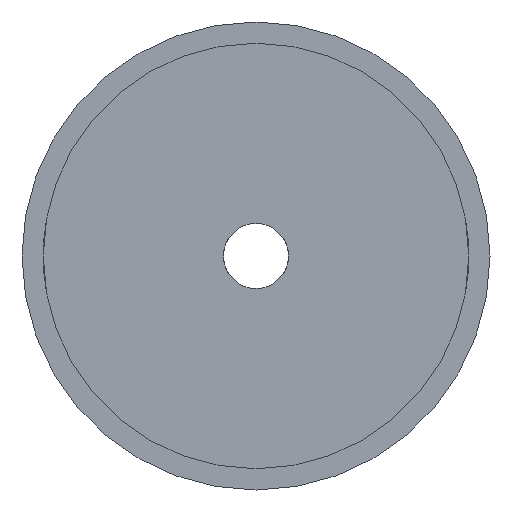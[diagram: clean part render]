
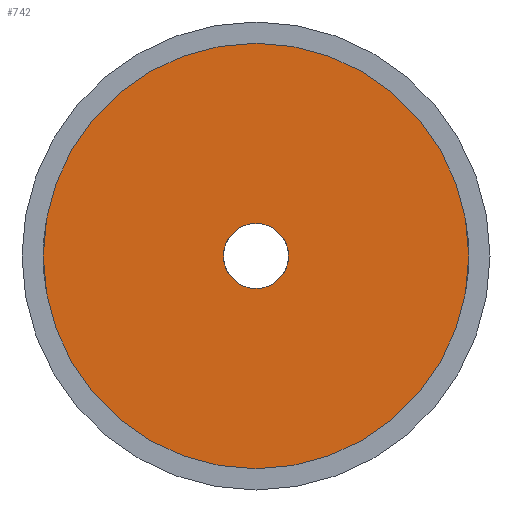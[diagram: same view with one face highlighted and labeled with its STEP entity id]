
A CAD part, front view. The second image highlights one B-rep face of the part: STEP entity #742.
In plain terms, the highlighted planar face has unit normal (0, -1, 0).
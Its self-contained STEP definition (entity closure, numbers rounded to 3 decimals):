
#22 = VERTEX_POINT('',#23);
#23 = CARTESIAN_POINT('',(18.,65.253,0.));
#32 = CYLINDRICAL_SURFACE('',#33,18.);
#33 = AXIS2_PLACEMENT_3D('',#34,#35,#36);
#34 = CARTESIAN_POINT('',(0.,65.253,0.));
#35 = DIRECTION('',(0.,-1.,-0.));
#36 = DIRECTION('',(1.,0.,0.));
#51 = EDGE_CURVE('',#22,#22,#52,.T.);
#52 = SURFACE_CURVE('',#53,(#58,#65),.PCURVE_S1.);
#53 = CIRCLE('',#54,18.);
#54 = AXIS2_PLACEMENT_3D('',#55,#56,#57);
#55 = CARTESIAN_POINT('',(0.,65.253,0.));
#56 = DIRECTION('',(-0.,1.,0.));
#57 = DIRECTION('',(1.,0.,0.));
#58 = PCURVE('',#32,#59);
#59 = DEFINITIONAL_REPRESENTATION('',(#60),#64);
#60 = LINE('',#61,#62);
#61 = CARTESIAN_POINT('',(-0.,0.));
#62 = VECTOR('',#63,1.);
#63 = DIRECTION('',(-1.,0.));
#64 = ( GEOMETRIC_REPRESENTATION_CONTEXT(2) 
PARAMETRIC_REPRESENTATION_CONTEXT() REPRESENTATION_CONTEXT('2D SPACE',''
  ) );
#65 = PCURVE('',#66,#71);
#66 = PLANE('',#67);
#67 = AXIS2_PLACEMENT_3D('',#68,#69,#70);
#68 = CARTESIAN_POINT('',(0.,65.253,
    0.));
#69 = DIRECTION('',(0.,1.,0.));
#70 = DIRECTION('',(0.,-0.,1.));
#71 = DEFINITIONAL_REPRESENTATION('',(#72),#76);
#72 = CIRCLE('',#73,18.);
#73 = AXIS2_PLACEMENT_2D('',#74,#75);
#74 = CARTESIAN_POINT('',(0.,0.));
#75 = DIRECTION('',(0.,1.));
#76 = ( GEOMETRIC_REPRESENTATION_CONTEXT(2) 
PARAMETRIC_REPRESENTATION_CONTEXT() REPRESENTATION_CONTEXT('2D SPACE',''
  ) );
#742 = ADVANCED_FACE('',(#743,#746),#66,.F.);
#743 = FACE_BOUND('',#744,.F.);
#744 = EDGE_LOOP('',(#745));
#745 = ORIENTED_EDGE('',*,*,#51,.T.);
#746 = FACE_BOUND('',#747,.F.);
#747 = EDGE_LOOP('',(#748));
#748 = ORIENTED_EDGE('',*,*,#749,.T.);
#749 = EDGE_CURVE('',#750,#750,#752,.T.);
#750 = VERTEX_POINT('',#751);
#751 = CARTESIAN_POINT('',(2.75,65.253,0.));
#752 = SURFACE_CURVE('',#753,(#758,#769),.PCURVE_S1.);
#753 = CIRCLE('',#754,2.75);
#754 = AXIS2_PLACEMENT_3D('',#755,#756,#757);
#755 = CARTESIAN_POINT('',(0.,65.253,0.));
#756 = DIRECTION('',(0.,-1.,-0.));
#757 = DIRECTION('',(1.,0.,0.));
#758 = PCURVE('',#66,#759);
#759 = DEFINITIONAL_REPRESENTATION('',(#760),#768);
#760 = ( BOUNDED_CURVE() B_SPLINE_CURVE(2,(#761,#762,#763,#764,#765,#766
,#767),.UNSPECIFIED.,.T.,.F.) B_SPLINE_CURVE_WITH_KNOTS((1,2,2,2,2,1),(
    -2.094,0.,2.094,4.189,6.283,
8.378),.UNSPECIFIED.) CURVE() GEOMETRIC_REPRESENTATION_ITEM() 
RATIONAL_B_SPLINE_CURVE((1.,0.5,1.,0.5,1.,0.5,1.)) REPRESENTATION_ITEM(
  '') );
#761 = CARTESIAN_POINT('',(0.,2.75));
#762 = CARTESIAN_POINT('',(4.763,2.75));
#763 = CARTESIAN_POINT('',(2.382,-1.375));
#764 = CARTESIAN_POINT('',(0.,-5.5));
#765 = CARTESIAN_POINT('',(-2.382,-1.375));
#766 = CARTESIAN_POINT('',(-4.763,2.75));
#767 = CARTESIAN_POINT('',(0.,2.75));
#768 = ( GEOMETRIC_REPRESENTATION_CONTEXT(2) 
PARAMETRIC_REPRESENTATION_CONTEXT() REPRESENTATION_CONTEXT('2D SPACE',''
  ) );
#769 = PCURVE('',#770,#775);
#770 = CYLINDRICAL_SURFACE('',#771,2.75);
#771 = AXIS2_PLACEMENT_3D('',#772,#773,#774);
#772 = CARTESIAN_POINT('',(0.,64.243,0.));
#773 = DIRECTION('',(0.,-1.,-0.));
#774 = DIRECTION('',(1.,0.,0.));
#775 = DEFINITIONAL_REPRESENTATION('',(#776),#780);
#776 = LINE('',#777,#778);
#777 = CARTESIAN_POINT('',(-6.283,-1.01));
#778 = VECTOR('',#779,1.);
#779 = DIRECTION('',(1.,-0.));
#780 = ( GEOMETRIC_REPRESENTATION_CONTEXT(2) 
PARAMETRIC_REPRESENTATION_CONTEXT() REPRESENTATION_CONTEXT('2D SPACE',''
  ) );
